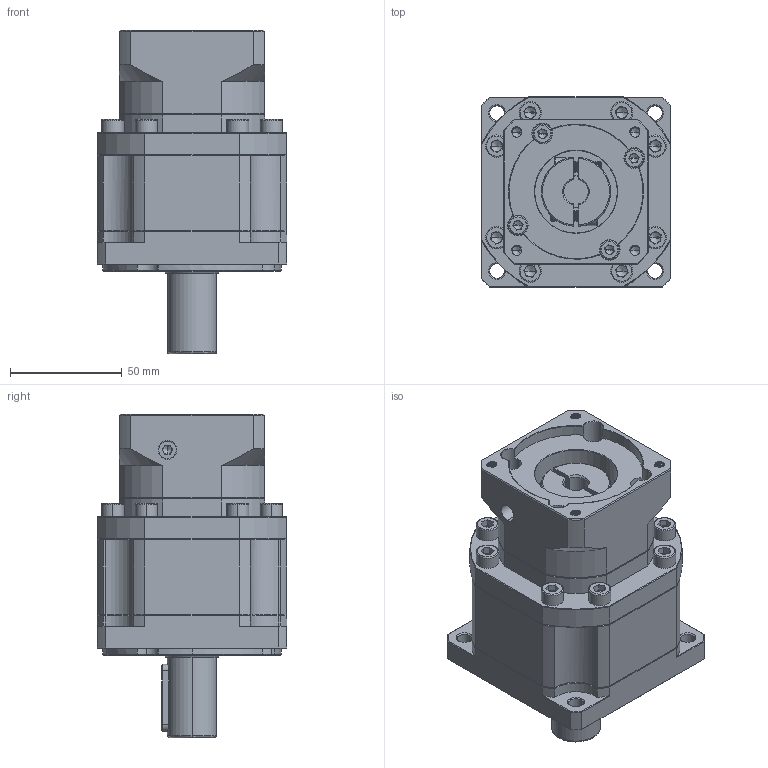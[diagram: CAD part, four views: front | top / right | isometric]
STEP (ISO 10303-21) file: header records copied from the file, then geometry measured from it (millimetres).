
FILE_DESCRIPTION (( 'STEP AP214' ), '1' );
FILE_NAME ('ZB90-D22-L2-11-60-75-M5.STEP', '2022-05-02T15:20:17', ( '' ), ( 'Microsoft' ), 'SwSTEP 2.0', 'SolidWorks 2016', '' );
FILE_SCHEMA (( 'AUTOMOTIVE_DESIGN' ));
Length unit declared in the file: millimetre
Products named in the file (1): ZB90-D22-L2-11-60-75-M5
Bounding box: 85 x 85 x 145 mm (x, y, z)
Volume: 541634.1 mm3; surface area: 76490.9 mm2
Topology: 6 solids, 6 shells, 2090 faces, 5485 edges, 3482 vertices
Faces by surface type: plane 1005, cylinder 409, bspline 328, cone 326, torus 22
Entity records: 110503 total; most frequent: CARTESIAN_POINT 38679, ORIENTED_EDGE 10878, DIRECTION 9007, EDGE_CURVE 5439, VERTEX_POINT 3482, LINE 3329, VECTOR 3329, AXIS2_PLACEMENT_3D 2839
